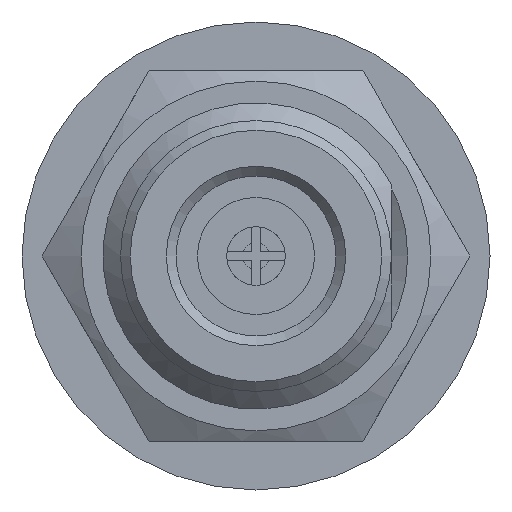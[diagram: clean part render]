
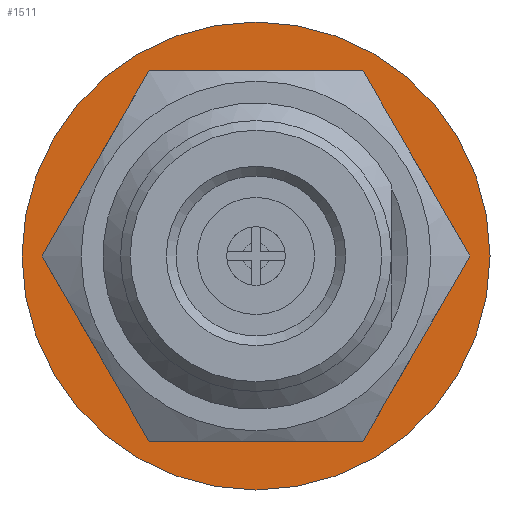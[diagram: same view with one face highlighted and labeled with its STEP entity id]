
A CAD part, left-side view. The second image highlights one B-rep face of the part: STEP entity #1511.
In plain terms, the highlighted planar face has unit normal (-1, 0, 0) as drawn and (0, 0, -1) by its records, which use the part's own axes.
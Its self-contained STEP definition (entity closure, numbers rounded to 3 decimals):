
#121=FACE_BOUND('',#364,.T.);
#169=PLANE('',#1780);
#259=FACE_OUTER_BOUND('',#363,.T.);
#363=EDGE_LOOP('',(#1407));
#364=EDGE_LOOP('',(#1408));
#663=CIRCLE('',#1775,9.);
#666=CIRCLE('',#1779,12.);
#795=VERTEX_POINT('',#2694);
#798=VERTEX_POINT('',#2702);
#997=EDGE_CURVE('',#795,#795,#663,.T.);
#1002=EDGE_CURVE('',#798,#798,#666,.T.);
#1407=ORIENTED_EDGE('',*,*,#1002,.T.);
#1408=ORIENTED_EDGE('',*,*,#997,.T.);
#1511=ADVANCED_FACE('',(#259,#121),#169,.F.);
#1775=AXIS2_PLACEMENT_3D('',#2695,#2227,#2228);
#1779=AXIS2_PLACEMENT_3D('',#2704,#2237,#2238);
#1780=AXIS2_PLACEMENT_3D('',#2705,#2239,#2240);
#2227=DIRECTION('center_axis',(0.,0.,1.));
#2228=DIRECTION('ref_axis',(-1.,0.,0.));
#2237=DIRECTION('center_axis',(0.,0.,-1.));
#2238=DIRECTION('ref_axis',(-1.,0.,0.));
#2239=DIRECTION('center_axis',(0.,0.,1.));
#2240=DIRECTION('ref_axis',(1.,0.,0.));
#2694=CARTESIAN_POINT('',(9.,0.,0.));
#2695=CARTESIAN_POINT('Origin',(0.,0.,0.));
#2702=CARTESIAN_POINT('',(12.,0.,0.));
#2704=CARTESIAN_POINT('Origin',(0.,0.,0.));
#2705=CARTESIAN_POINT('Origin',(0.,0.,
0.));
